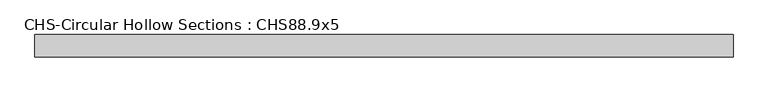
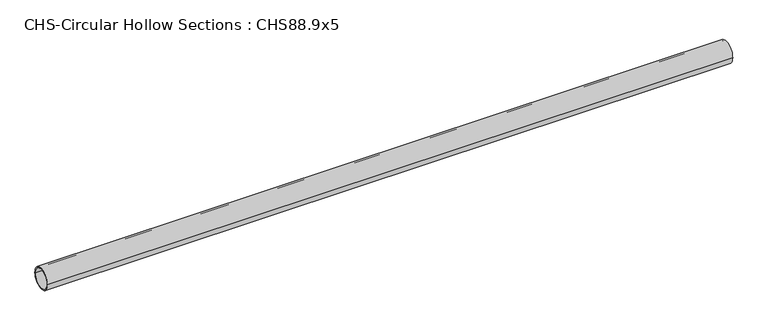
"""IFC4 building model written with IfcOpenShell, lengths in millimetres: beam geometry, CHS-Circular Hollow Sections : CHS88.9x5."""

from ifc_helpers import new_model, si_unit, point, frame, origin, origin_2d, place, context, project, spatial, circle_curve, trimmed, segment, composite_curve, outline, extrude, source, transform, mapped, element, save


def chs_circular_hollow_sections_chs88_9x5_3ce3351f(model_context):
    return source(origin(), model_context, "Body", "SweptSolid", [
        extrude(outline(composite_curve([segment(trimmed(circle_curve(origin_2d(), 44.45), [point((-44.45, 0.0))], [point((44.45, 0.0))], False, "CARTESIAN"), True, "CONTINUOUS"), segment(trimmed(circle_curve(origin_2d(), 44.45), [point((44.45, 0.0))], [point((-44.45, 0.0))], False, "CARTESIAN"), True, "CONTINUOUS")], self_intersect=False), holes=[composite_curve([segment(trimmed(circle_curve(origin_2d(), 39.45), [point((39.45, 0.0))], [point((-39.45, 0.0))], True, "CARTESIAN"), True, "CONTINUOUS"), segment(trimmed(circle_curve(origin_2d(), 39.45), [point((-39.45, 0.0))], [point((39.45, 0.0))], True, "CARTESIAN"), True, "CONTINUOUS")], self_intersect=False)]), frame((-1542.0, 0.0, 0.0), z_axis=(1.0, 0.0, 0.0), x_axis=(0.0, 1.0, 0.0)), (0.0, 0.0, 1.0), 2798.0),
    ])


if __name__ == "__main__":
    model = new_model("IFC4")
    model_context = context("Model", 3, world=origin())
    ifc_project = project(units=[si_unit("LENGTHUNIT", "METRE", prefix="MILLI")], contexts=[model_context])
    site = spatial("IfcSite", under=ifc_project)
    building = spatial("IfcBuilding", under=site)
    placement = place(None, origin())
    chs_circular_hollow_sections_chs88_9x5_shape = chs_circular_hollow_sections_chs88_9x5_3ce3351f(model_context)
    element("IfcBeam", 1, ObjectType="CHS-Circular Hollow Sections : CHS88.9x5", at=placement, inside=building, context=model_context, shape_type="MappedRepresentation", body=[
        mapped(chs_circular_hollow_sections_chs88_9x5_shape, transform((0.0, 0.0, 0.0), x_axis=(1.0, 0.0, 0.0), y_axis=(0.0, 1.0, 0.0), z_axis=(0.0, 0.0, 1.0))),
    ])
    save(model, "model.ifc")
